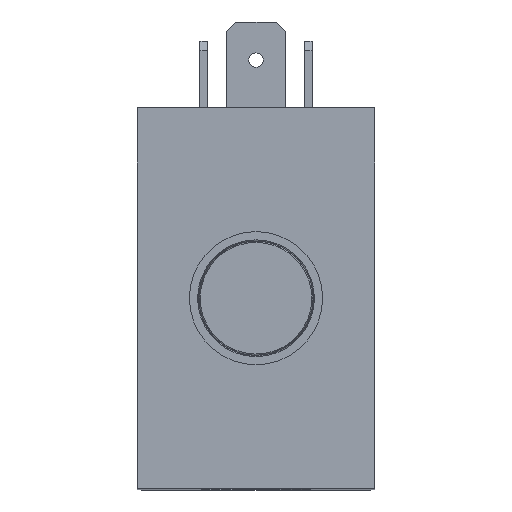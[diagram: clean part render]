
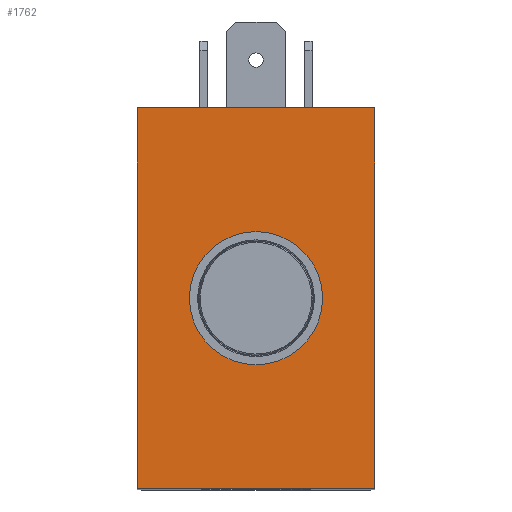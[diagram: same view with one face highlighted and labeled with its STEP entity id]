
A CAD part, top view. The second image highlights one B-rep face of the part: STEP entity #1762.
In plain terms, the highlighted planar face has unit normal (0, 0, 1).
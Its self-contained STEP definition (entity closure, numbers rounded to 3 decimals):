
#500 = EDGE_LOOP ( 'NONE', ( #4744 ) ) ;
#505 = EDGE_LOOP ( 'NONE', ( #4757, #4756, #4742, #4743 ) ) ;
#602 = VERTEX_POINT ( 'NONE', #1185 ) ;
#605 = VERTEX_POINT ( 'NONE', #1188 ) ;
#759 = VERTEX_POINT ( 'NONE', #1342 ) ;
#760 = VERTEX_POINT ( 'NONE', #1343 ) ;
#1185 = CARTESIAN_POINT ( 'NONE',  ( -12.5, -20., 74. ) ) ;
#1188 = CARTESIAN_POINT ( 'NONE',  ( -12.5, 20., 74. ) ) ;
#1342 = CARTESIAN_POINT ( 'NONE',  ( 12.5, 20., 74. ) ) ;
#1343 = CARTESIAN_POINT ( 'NONE',  ( 12.5, -20., 74. ) ) ;
#1762 = ADVANCED_FACE ( 'NONE', ( #7133, #7130 ), #6334, .F. ) ;
#1966 = EDGE_CURVE ( 'NONE', #602, #605, #8117, .T. ) ;
#2015 = EDGE_CURVE ( 'NONE', #760, #602, #10215, .T. ) ;
#2020 = EDGE_CURVE ( 'NONE', #759, #760, #10281, .T. ) ;
#2022 = EDGE_CURVE ( 'NONE', #605, #759, #10301, .T. ) ;
#2023 = EDGE_CURVE ( 'NONE', #17358, #17358, #10316, .T. ) ;
#3623 = AXIS2_PLACEMENT_3D ( 'NONE', #6330, #6342, #6343 ) ;
#4742 = ORIENTED_EDGE ( 'NONE', *, *, #2020, .F. ) ;
#4743 = ORIENTED_EDGE ( 'NONE', *, *, #2022, .F. ) ;
#4744 = ORIENTED_EDGE ( 'NONE', *, *, #2023, .T. ) ;
#4756 = ORIENTED_EDGE ( 'NONE', *, *, #2015, .F. ) ;
#4757 = ORIENTED_EDGE ( 'NONE', *, *, #1966, .F. ) ;
#6330 = CARTESIAN_POINT ( 'NONE',  ( -9.25, 0., 74. ) ) ;
#6334 = PLANE ( 'NONE',  #3623 ) ;
#6342 = DIRECTION ( 'NONE',  ( 0., 0., -1. ) ) ;
#6343 = DIRECTION ( 'NONE',  ( 0.707, 0.707, 0. ) ) ;
#7130 = FACE_BOUND ( 'NONE', #500, .T. ) ;
#7133 = FACE_OUTER_BOUND ( 'NONE', #505, .T. ) ;
#8117 = LINE ( 'NONE', #9752, #10202 ) ;
#8405 = AXIS2_PLACEMENT_3D ( 'NONE', #9867, #9869, #9870 ) ;
#9752 = CARTESIAN_POINT ( 'NONE',  ( -12.5, -20., 74. ) ) ;
#9753 = DIRECTION ( 'NONE',  ( 0., 1., 0. ) ) ;
#9834 = CARTESIAN_POINT ( 'NONE',  ( 12.5, -20., 74. ) ) ;
#9853 = DIRECTION ( 'NONE',  ( -1., 0., 0. ) ) ;
#9854 = CARTESIAN_POINT ( 'NONE',  ( 12.5, 20., 74. ) ) ;
#9863 = DIRECTION ( 'NONE',  ( 0., -1., 0. ) ) ;
#9864 = CARTESIAN_POINT ( 'NONE',  ( -12.5, 20., 74. ) ) ;
#9867 = CARTESIAN_POINT ( 'NONE',  ( 0., 0., 74. ) ) ;
#9868 = DIRECTION ( 'NONE',  ( 1., 0., 0. ) ) ;
#9869 = DIRECTION ( 'NONE',  ( 0., 0., -1. ) ) ;
#9870 = DIRECTION ( 'NONE',  ( -1., 0., 0. ) ) ;
#10202 = VECTOR ( 'NONE', #9753, 1000. ) ;
#10215 = LINE ( 'NONE', #9834, #10298 ) ;
#10281 = LINE ( 'NONE', #9854, #10308 ) ;
#10298 = VECTOR ( 'NONE', #9853, 1000. ) ;
#10301 = LINE ( 'NONE', #9864, #10312 ) ;
#10308 = VECTOR ( 'NONE', #9863, 1000. ) ;
#10312 = VECTOR ( 'NONE', #9868, 1000. ) ;
#10316 = CIRCLE ( 'NONE', #8405, 7. ) ;
#17358 = VERTEX_POINT ( 'NONE', #17359 ) ;
#17359 = CARTESIAN_POINT ( 'NONE',  ( -7., 0., 74. ) ) ;
